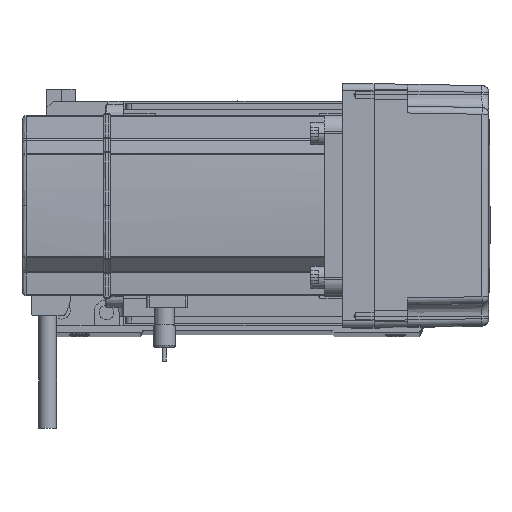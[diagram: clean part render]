
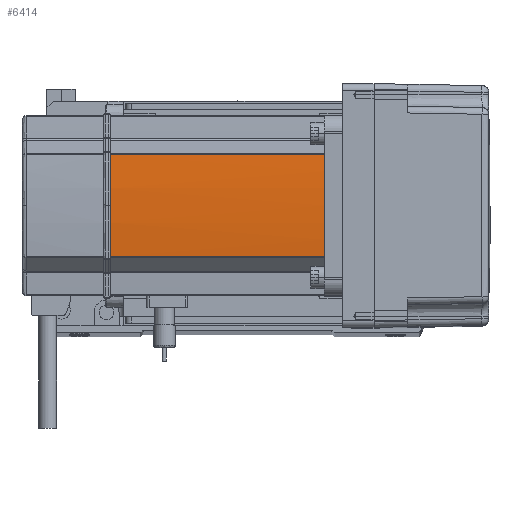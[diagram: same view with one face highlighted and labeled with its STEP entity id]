
A CAD part, top view. The second image highlights one B-rep face of the part: STEP entity #6414.
In plain terms, the highlighted cylindrical face has radius 270 mm (diameter 540 mm), a partial arc.
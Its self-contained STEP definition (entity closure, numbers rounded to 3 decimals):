
#442 = LINE ( 'NONE', #35538, #30472 ) ;
#2765 = EDGE_LOOP ( 'NONE', ( #47948, #20211, #52709, #41791, #20347 ) ) ;
#3316 = AXIS2_PLACEMENT_3D ( 'NONE', #32061, #36180, #13921 ) ;
#3320 = EDGE_CURVE ( 'NONE', #25524, #4685, #51178, .T. ) ;
#3456 = DIRECTION ( 'NONE',  ( 0., 0., 1. ) ) ;
#4685 = VERTEX_POINT ( 'NONE', #8409 ) ;
#4835 = DIRECTION ( 'NONE',  ( 0., 0., -1. ) ) ;
#5318 = CIRCLE ( 'NONE', #21392, 270. ) ;
#6329 = DIRECTION ( 'NONE',  ( 1., 0., 0. ) ) ;
#6414 = ADVANCED_FACE ( 'NONE', ( #21498 ), #10304, .T. ) ;
#6580 = CARTESIAN_POINT ( 'NONE',  ( -39.042, 22.724, 39. ) ) ;
#6896 = CARTESIAN_POINT ( 'NONE',  ( -40., 0., 134. ) ) ;
#8409 = CARTESIAN_POINT ( 'NONE',  ( -39.042, -22.724, 134. ) ) ;
#10304 = CYLINDRICAL_SURFACE ( 'NONE', #26445, 270. ) ;
#10996 = DIRECTION ( 'NONE',  ( 0., 0., -1. ) ) ;
#11772 = EDGE_CURVE ( 'NONE', #4685, #20312, #5318, .T. ) ;
#12417 = CARTESIAN_POINT ( 'NONE',  ( -39.042, 22.724, 134. ) ) ;
#13921 = DIRECTION ( 'NONE',  ( 1., 0., 0. ) ) ;
#15784 = DIRECTION ( 'NONE',  ( 1., 0., 0. ) ) ;
#18275 = VECTOR ( 'NONE', #3456, 1000. ) ;
#19668 = DIRECTION ( 'NONE',  ( 1., 0., 0. ) ) ;
#20211 = ORIENTED_EDGE ( 'NONE', *, *, #38800, .T. ) ;
#20312 = VERTEX_POINT ( 'NONE', #6896 ) ;
#20347 = ORIENTED_EDGE ( 'NONE', *, *, #3320, .T. ) ;
#21392 = AXIS2_PLACEMENT_3D ( 'NONE', #28405, #10996, #6329 ) ;
#21498 = FACE_OUTER_BOUND ( 'NONE', #2765, .T. ) ;
#21808 = CARTESIAN_POINT ( 'NONE',  ( -39.042, -22.724, 39. ) ) ;
#22367 = AXIS2_PLACEMENT_3D ( 'NONE', #42760, #46841, #19668 ) ;
#23770 = EDGE_CURVE ( 'NONE', #25524, #43118, #26376, .T. ) ;
#25524 = VERTEX_POINT ( 'NONE', #21808 ) ;
#26376 = CIRCLE ( 'NONE', #22367, 270. ) ;
#26445 = AXIS2_PLACEMENT_3D ( 'NONE', #42180, #55718, #15784 ) ;
#28405 = CARTESIAN_POINT ( 'NONE',  ( 230., 0., 134. ) ) ;
#30472 = VECTOR ( 'NONE', #4835, 1000. ) ;
#32061 = CARTESIAN_POINT ( 'NONE',  ( 230., 0., 134. ) ) ;
#33384 = EDGE_CURVE ( 'NONE', #38345, #43118, #442, .T. ) ;
#35538 = CARTESIAN_POINT ( 'NONE',  ( -39.042, 22.724, 0. ) ) ;
#36180 = DIRECTION ( 'NONE',  ( 0., 0., -1. ) ) ;
#38345 = VERTEX_POINT ( 'NONE', #12417 ) ;
#38800 = EDGE_CURVE ( 'NONE', #20312, #38345, #57806, .T. ) ;
#41791 = ORIENTED_EDGE ( 'NONE', *, *, #23770, .F. ) ;
#42180 = CARTESIAN_POINT ( 'NONE',  ( 230., 0., 0. ) ) ;
#42760 = CARTESIAN_POINT ( 'NONE',  ( 230., 0., 39. ) ) ;
#43118 = VERTEX_POINT ( 'NONE', #6580 ) ;
#46841 = DIRECTION ( 'NONE',  ( 0., 0., -1. ) ) ;
#47948 = ORIENTED_EDGE ( 'NONE', *, *, #11772, .T. ) ;
#51178 = LINE ( 'NONE', #56524, #18275 ) ;
#52709 = ORIENTED_EDGE ( 'NONE', *, *, #33384, .T. ) ;
#55718 = DIRECTION ( 'NONE',  ( 0., 0., 1. ) ) ;
#56524 = CARTESIAN_POINT ( 'NONE',  ( -39.042, -22.724, 0. ) ) ;
#57806 = CIRCLE ( 'NONE', #3316, 270. ) ;
